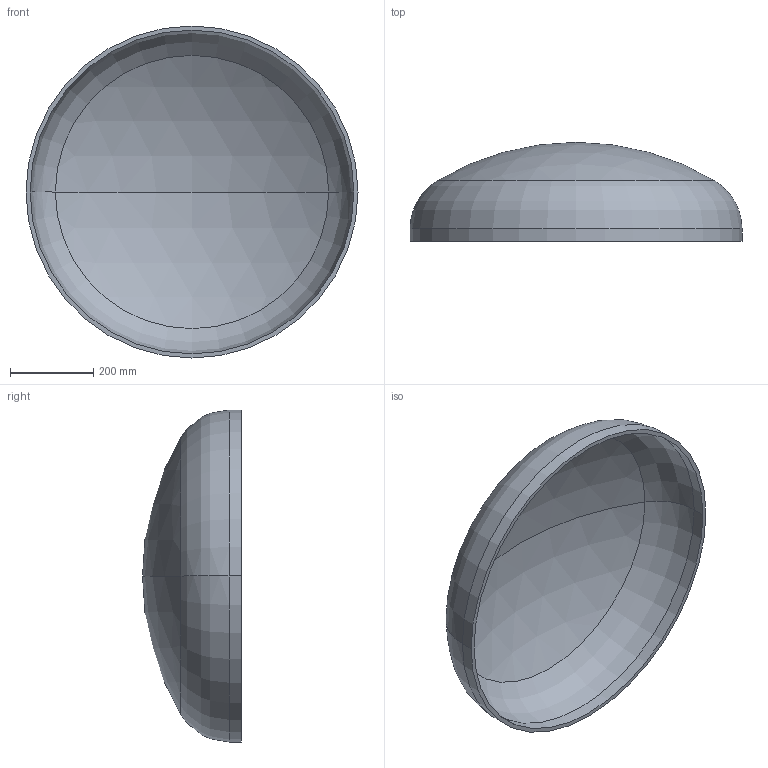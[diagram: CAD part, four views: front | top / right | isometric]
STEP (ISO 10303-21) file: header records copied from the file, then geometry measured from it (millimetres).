
FILE_DESCRIPTION (( 'STEP AP203' ), '1' );
FILE_NAME ('DIN 28013 Korbbogenform_-_Boden DIN 28013 - 800 x 30 - I - s=10.step', '2016-07-01T08:12:25', ( '' ), ( '' ), 'SwSTEP 2.0', 'SolidWorks 2013', '' );
FILE_SCHEMA (( 'CONFIG_CONTROL_DESIGN' ));
Length unit declared in the file: millimetre
Products named in the file (1): DIN 28013 Korbbogenform_-_Boden DIN 28013 - 800 x 30 - I - s=10
Bounding box: 800 x 238.41 x 800 mm (x, y, z)
Volume: 7611847.8 mm3; surface area: 1547397 mm2
Topology: 1 solids, 1 shells, 13 faces, 24 edges, 14 vertices
Faces by surface type: torus 4, cylinder 4, sphere 4, plane 1
Entity records: 407 total; most frequent: DIRECTION 72, CARTESIAN_POINT 52, ORIENTED_EDGE 48, AXIS2_PLACEMENT_3D 34, EDGE_CURVE 24, CIRCLE 20, EDGE_LOOP 14, VERTEX_POINT 14
